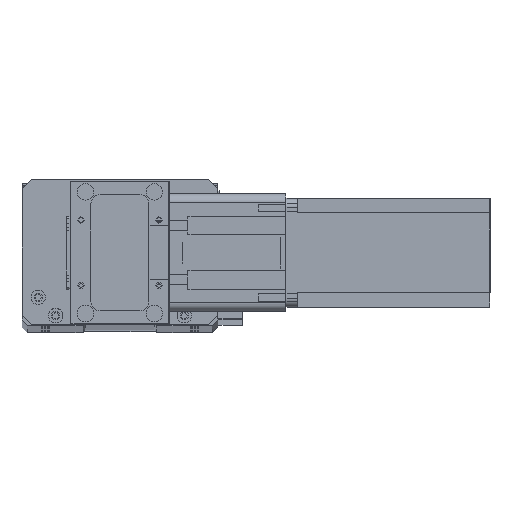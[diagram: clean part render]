
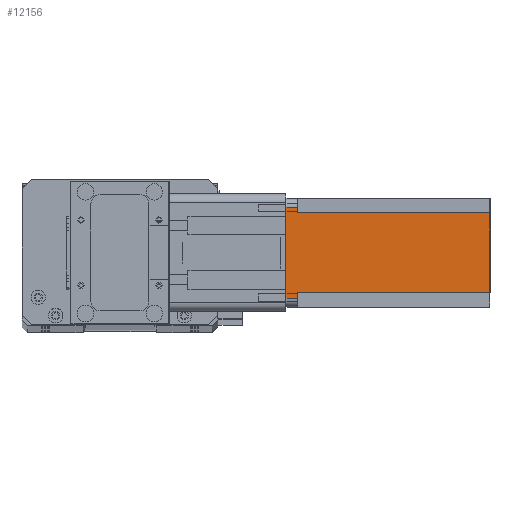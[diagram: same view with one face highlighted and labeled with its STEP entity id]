
A CAD part, top view. The second image highlights one B-rep face of the part: STEP entity #12156.
In plain terms, the highlighted planar face has unit normal (0, 0, 1) as drawn and (0, 1, 0) by its records, which use the part's own axes.
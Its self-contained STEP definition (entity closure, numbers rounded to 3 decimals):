
#1657 = VERTEX_POINT ( 'NONE', #4650 ) ;
#2019 = LINE ( 'NONE', #9123, #20554 ) ;
#2219 = DIRECTION ( 'NONE',  ( -1., 0., 0. ) ) ;
#2309 = VERTEX_POINT ( 'NONE', #2788 ) ;
#2473 = EDGE_CURVE ( 'NONE', #22417, #10184, #19624, .T. ) ;
#2788 = CARTESIAN_POINT ( 'NONE',  ( 52., 60., -112.5 ) ) ;
#2922 = VERTEX_POINT ( 'NONE', #14360 ) ;
#3161 = DIRECTION ( 'NONE',  ( 0., 0., 1. ) ) ;
#3181 = CARTESIAN_POINT ( 'NONE',  ( 5., 60., -6.5 ) ) ;
#3495 = CARTESIAN_POINT ( 'NONE',  ( 55., 60., -112.5 ) ) ;
#3555 = CARTESIAN_POINT ( 'NONE',  ( 52., 60., -112.5 ) ) ;
#3681 = CARTESIAN_POINT ( 'NONE',  ( 52., 60., -6.5 ) ) ;
#4355 = EDGE_CURVE ( 'NONE', #28757, #10184, #6347, .T. ) ;
#4650 = CARTESIAN_POINT ( 'NONE',  ( 55., 60., -6.5 ) ) ;
#5280 = EDGE_LOOP ( 'NONE', ( #26912, #6910, #28356, #23976, #21246, #6052, #21693, #8984 ) ) ;
#5564 = CARTESIAN_POINT ( 'NONE',  ( 55., 60., 0. ) ) ;
#5991 = DIRECTION ( 'NONE',  ( 0., 0., 1. ) ) ;
#6052 = ORIENTED_EDGE ( 'NONE', *, *, #22032, .F. ) ;
#6347 = LINE ( 'NONE', #23926, #29589 ) ;
#6910 = ORIENTED_EDGE ( 'NONE', *, *, #22498, .T. ) ;
#7932 = CARTESIAN_POINT ( 'NONE',  ( 5., 60., 0. ) ) ;
#8984 = ORIENTED_EDGE ( 'NONE', *, *, #2473, .T. ) ;
#9123 = CARTESIAN_POINT ( 'NONE',  ( 8., 60., -6.5 ) ) ;
#9633 = VECTOR ( 'NONE', #20720, 1000. ) ;
#9665 = VECTOR ( 'NONE', #5991, 1000. ) ;
#10184 = VERTEX_POINT ( 'NONE', #7932 ) ;
#10290 = EDGE_CURVE ( 'NONE', #2309, #25438, #29662, .T. ) ;
#10517 = DIRECTION ( 'NONE',  ( 0., 1., 0. ) ) ;
#11408 = AXIS2_PLACEMENT_3D ( 'NONE', #17461, #10517, #26802 ) ;
#11948 = VECTOR ( 'NONE', #3161, 1000. ) ;
#12156 = ADVANCED_FACE ( 'NONE', ( #21002 ), #19673, .T. ) ;
#14360 = CARTESIAN_POINT ( 'NONE',  ( 8., 60., -6.5 ) ) ;
#14626 = EDGE_CURVE ( 'NONE', #2309, #25880, #27481, .T. ) ;
#14693 = LINE ( 'NONE', #3681, #27074 ) ;
#15115 = DIRECTION ( 'NONE',  ( 0., 0., -1. ) ) ;
#16949 = DIRECTION ( 'NONE',  ( -1., 0., 0. ) ) ;
#17461 = CARTESIAN_POINT ( 'NONE',  ( 0., 60., -112.5 ) ) ;
#18218 = CARTESIAN_POINT ( 'NONE',  ( 0., 60., -112.5 ) ) ;
#18261 = LINE ( 'NONE', #25396, #29151 ) ;
#19624 = LINE ( 'NONE', #29193, #11948 ) ;
#19673 = PLANE ( 'NONE',  #11408 ) ;
#19947 = DIRECTION ( 'NONE',  ( 1., 0., 0. ) ) ;
#20554 = VECTOR ( 'NONE', #2219, 1000. ) ;
#20710 = DIRECTION ( 'NONE',  ( 0., 0., -1. ) ) ;
#20720 = DIRECTION ( 'NONE',  ( -1., 0., 0. ) ) ;
#21002 = FACE_OUTER_BOUND ( 'NONE', #5280, .T. ) ;
#21246 = ORIENTED_EDGE ( 'NONE', *, *, #14626, .T. ) ;
#21693 = ORIENTED_EDGE ( 'NONE', *, *, #26378, .T. ) ;
#22032 = EDGE_CURVE ( 'NONE', #2922, #25880, #18261, .T. ) ;
#22417 = VERTEX_POINT ( 'NONE', #3181 ) ;
#22498 = EDGE_CURVE ( 'NONE', #28757, #1657, #24408, .T. ) ;
#23457 = CARTESIAN_POINT ( 'NONE',  ( 8., 60., -112.5 ) ) ;
#23646 = VECTOR ( 'NONE', #15115, 1000. ) ;
#23926 = CARTESIAN_POINT ( 'NONE',  ( 0., 60., 0. ) ) ;
#23976 = ORIENTED_EDGE ( 'NONE', *, *, #10290, .F. ) ;
#24219 = CARTESIAN_POINT ( 'NONE',  ( 52., 60., -6.5 ) ) ;
#24408 = LINE ( 'NONE', #3495, #23646 ) ;
#25396 = CARTESIAN_POINT ( 'NONE',  ( 8., 60., -112.5 ) ) ;
#25438 = VERTEX_POINT ( 'NONE', #24219 ) ;
#25880 = VERTEX_POINT ( 'NONE', #23457 ) ;
#26378 = EDGE_CURVE ( 'NONE', #2922, #22417, #2019, .T. ) ;
#26802 = DIRECTION ( 'NONE',  ( 0., 0., 1. ) ) ;
#26912 = ORIENTED_EDGE ( 'NONE', *, *, #4355, .F. ) ;
#27074 = VECTOR ( 'NONE', #19947, 1000. ) ;
#27481 = LINE ( 'NONE', #18218, #9633 ) ;
#28356 = ORIENTED_EDGE ( 'NONE', *, *, #28374, .F. ) ;
#28374 = EDGE_CURVE ( 'NONE', #25438, #1657, #14693, .T. ) ;
#28757 = VERTEX_POINT ( 'NONE', #5564 ) ;
#29151 = VECTOR ( 'NONE', #20710, 1000. ) ;
#29193 = CARTESIAN_POINT ( 'NONE',  ( 5., 60., -112.5 ) ) ;
#29589 = VECTOR ( 'NONE', #16949, 1000. ) ;
#29662 = LINE ( 'NONE', #3555, #9665 ) ;
